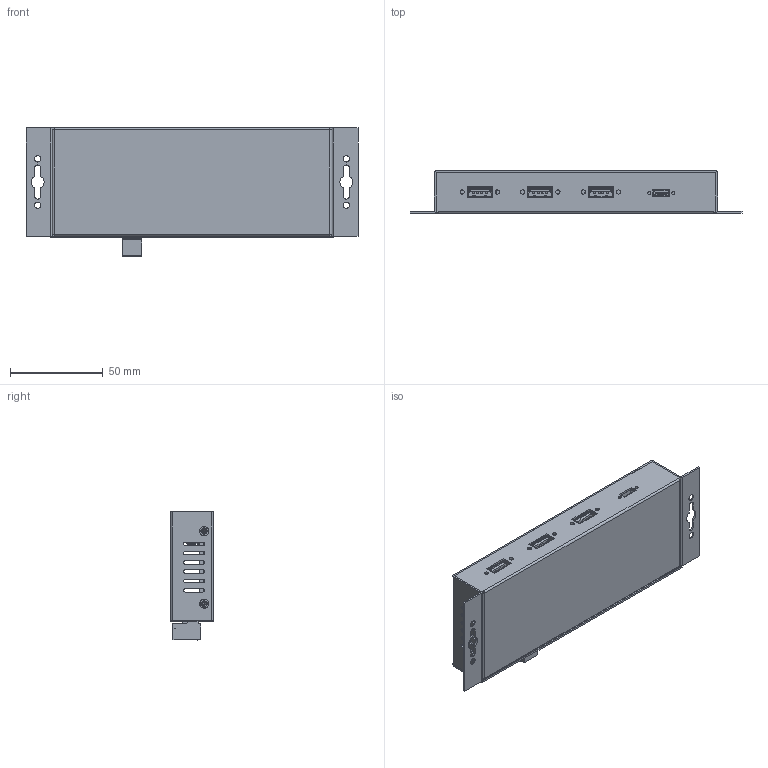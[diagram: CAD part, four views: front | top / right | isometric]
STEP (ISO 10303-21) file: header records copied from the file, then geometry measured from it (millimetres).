
FILE_DESCRIPTION(/* description */ (''),/* implementation_level */ '2;1');
FILE_NAME(/* name */ '/Users/leo/Desktop/Coolgear/CG-3X2C3AM/CG-3X2C3AM Model3D LPV1.step',/* time_stamp */ '2021-04-22T11:35:37-04:00',/* author */ (''),/* organization */ (''),/* preprocessor_version */ 'ST-DEVELOPER v18.1',/* originating_system */ 'Autodesk Translation Framework v10.6.0.1341',/* authorisation */ '');
FILE_SCHEMA (('AUTOMOTIVE_DESIGN { 1 0 10303 214 3 1 1 }'));
Products named in the file (37): CG-3X2C3AM; Component1; 93090A571; Component3; Component4; Port single USB v1; Download_STP_692121030100_(rev1); Port single USB v1_1; Download_STP_692121030100_(rev1)_1; Port single USB v1_2; Download_STP_692121030100_(rev1)_2; housing1; pin1; housing2; pin2; pin; shielding; C-type Usb v3; 3mm_LED v4; 3mm_LED; led_energy (1); led_energy; led_pin.1.1.1 (1); led_pin.1.1.1; led_pin.2.1 (1); led_pin.2.1; C-type Usb v3_1; TypeC(12); Phoenix connector EDZ950/XX TERMINAL BLOCK PLUGGABLE PLUG v6; Conector 2dbl dinkle_2esdsm-02p v2; Connector Volts v1; Component1 (1); Component2; Component3 (1); Component4 (1); M3X0.5 China 120ang METRIC 18-8 SS FLAT HEAD PHIL MACHINE SCREW v2; Component33
Assembly tree (73 placements, depth 5):
  CG-3X2C3AM
    Component1
    93090A571  x4
    Component3
    Component4
    Port single USB v1
      Download_STP_692121030100_(rev1)
        housing1
        pin1  x5
        housing2
        pin2  x2
        pin  x2
        shielding
    Port single USB v1_1
      Download_STP_692121030100_(rev1)_1
        housing1
        pin1  x5
        housing2
        pin2  x2
        pin  x2
        shielding
    Port single USB v1_2
      Download_STP_692121030100_(rev1)_2
        housing1
        pin1  x5
        housing2
        pin2  x2
        pin  x2
        shielding
    C-type Usb v3
      TypeC(12)
    3mm_LED v4
      3mm_LED
        led_energy (1)
          led_energy
        led_pin.1.1.1 (1)
          led_pin.1.1.1
        led_pin.2.1 (1)
          led_pin.2.1
    C-type Usb v3_1
      TypeC(12)
    Phoenix connector EDZ950/XX TERMINAL BLOCK PLUGGABLE PLUG v6
    Conector 2dbl dinkle_2esdsm-02p v2
    Connector Volts v1
      Component1 (1)
      Component2
      Component3 (1)
      Component4 (1)
    M3X0.5 China 120ang METRIC 18-8 SS FLAT HEAD PHIL MACHINE SCREW v2  x4
    Component33
Bounding box: 179.12 x 23.02 x 69.08 mm (x, y, z)
Volume: 61606.7 mm3; surface area: 113296.9 mm2
Topology: 3 solids, 33 shells, 5510 faces, 15874 edges, 10197 vertices
Faces by surface type: plane 4109, cylinder 1243, cone 84, bspline 49, sphere 15, torus 10
Full cylindrical faces by diameter (mm): 0.5 x4, 1.25 x2, 1.6 x2, 1.7 x4, 1.749 x1, 2.25 x13, 2.35 x16, 2.529 x4, 2.998 x1, 3 x24, 3.3 x1, 3.4 x8, 3.643 x1, 3.688 x1, 3.86 x2, 4.2 x4, 5.25 x2, 6.25 x1
Entity records: 187855 total; most frequent: CARTESIAN_POINT 40104, ORIENTED_EDGE 31726, DIRECTION 29222, EDGE_CURVE 15863, LINE 12938, VECTOR 12938, VERTEX_POINT 10197, AXIS2_PLACEMENT_3D 8142
